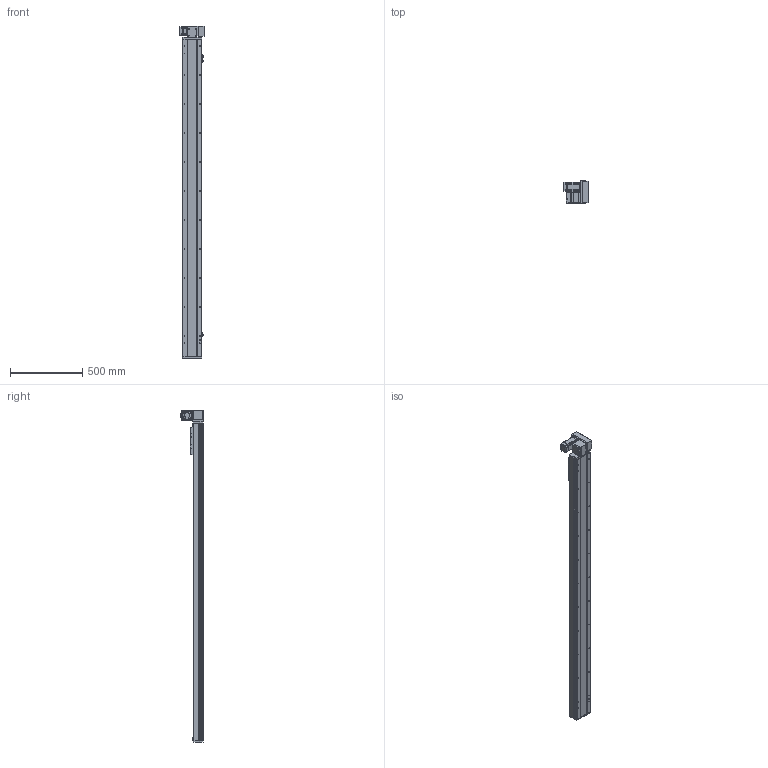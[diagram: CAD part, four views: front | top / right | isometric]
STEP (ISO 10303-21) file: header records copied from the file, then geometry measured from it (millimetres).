
FILE_DESCRIPTION (( 'STEP AP214' ), '1' );
FILE_NAME ('TPE14-L40-1900-RU-T40-C4.STEP', '2023-04-13T07:46:49', ( '' ), ( '' ), 'SwSTEP 2.0', 'SolidWorks 2020', '' );
FILE_SCHEMA (( 'AUTOMOTIVE_DESIGN' ));
Length unit declared in the file: millimetre
Products named in the file (10): 葩璃 TPT14-L-009 萇儂啣^TPE14-L40-RU-T40-C4_400W; hexagon head bolts-full thread gb_GB_FASTENER_BOLT_STBAB A M5X16-N; 葩璃 侂狟400W^TPE14-L40-RU-T40-C4; 葩璃 TPE14-L-001 菁釱MZ-135-01^TPE14-L40-RU-T40-C4; 葩璃 TPE14-L-007 々湍釱MZ-169x88^TPE14-L40-RU-T40-C4_YCB14; 葩璃 pm-t65-672^TPE14-L40-RU-T40-C4; 葩璃 TPE14-L-002 耜裔ZTMZ-135-04^TPE14-L40-RU-T40-C4; TPE14-L40-1900-RU-T40-C4; 葩璃 詩湍75^TPE14-L40-RU-T40-C4; 葩璃 TPE14 賑雄殤^TPE14-L40-RU-T40-C4
Assembly tree (12 placements, depth 2):
  TPE14-L40-1900-RU-T40-C4
    葩璃 TPE14-L-001 菁釱MZ-135-01^TPE14-L40-RU-T40-C4
    葩璃 TPE14-L-002 耜裔ZTMZ-135-04^TPE14-L40-RU-T40-C4  x2
    葩璃 詩湍75^TPE14-L40-RU-T40-C4
    葩璃 TPE14-L-007 々湍釱MZ-169x88^TPE14-L40-RU-T40-C4_YCB14
    葩璃 TPT14-L-009 萇儂啣^TPE14-L40-RU-T40-C4_400W
    葩璃 TPE14 賑雄殤^TPE14-L40-RU-T40-C4
    葩璃 pm-t65-672^TPE14-L40-RU-T40-C4  x3
    葩璃 侂狟400W^TPE14-L40-RU-T40-C4
    hexagon head bolts-full thread gb_GB_FASTENER_BOLT_STBAB A M5X16-N
Bounding box: 172.5 x 160.85 x 2290.5 mm (x, y, z)
Volume: 11453592.7 mm3; surface area: 2177381.6 mm2
Topology: 23 solids, 23 shells, 1452 faces, 3767 edges, 2380 vertices
Faces by surface type: plane 823, cylinder 441, cone 154, bspline 34
Entity records: 38855 total; most frequent: CARTESIAN_POINT 7524, DIRECTION 6208, ORIENTED_EDGE 5986, EDGE_CURVE 2993, AXIS2_PLACEMENT_3D 2118, VECTOR 1972, LINE 1972, VERTEX_POINT 1928
